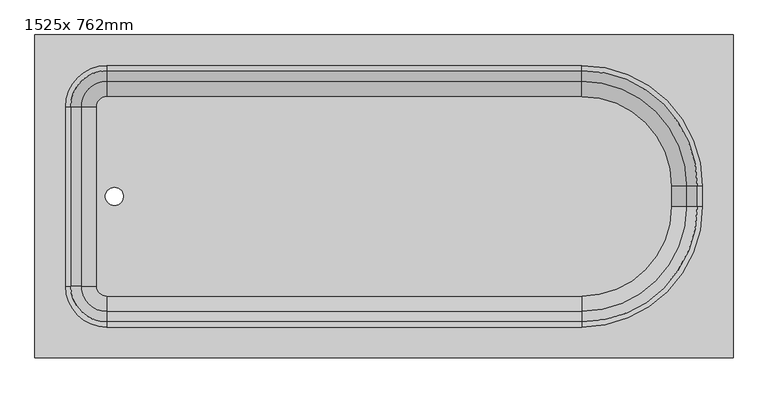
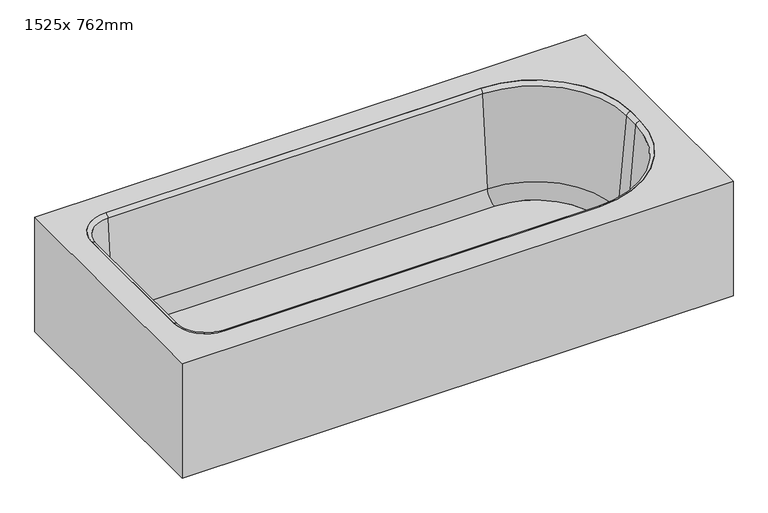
"""IFC4 building model written with IfcOpenShell, lengths in millimetres: flow terminal geometry, 욕조-직사각형-3D : 1525x 762mm."""

from ifc_helpers import new_model, si_unit, point, frame, frame_2d, origin, place, context, project, spatial, polyline, circle_curve, ellipse_curve, trimmed, segment, composite_curve, outline, extrude, source, transform, mapped, element, save
from ifc_brep_helpers import plane_surface, cylinder_surface, revolved_surface, advanced_brep


def flow_terminal_1525x_762mm_186bff3d(model_context):
    return source(origin(), model_context, "Body", "SolidModel", [
        advanced_brep(
        [(619.3970313, 950.0, 380.0), (-1110.6029687, 950.0, 380.0), (-1110.6029687, 150.0, 380.0), (619.3970313, 150.0, 380.0), (-932.8029687, 873.8, 380.0), (244.7970313, 873.8, 380.0), (543.1970313, 575.4, 380.0), (543.1970313, 524.6, 380.0), (244.7970313, 226.2, 380.0), (-932.8029687, 226.2, 380.0), (-1034.4029687, 327.8, 380.0), (-1034.4029687, 772.2, 380.0), (600.3470313, 930.95, 360.95), (600.3470313, 169.05, 360.95), (-1091.5529687, 169.05, 360.95), (-1091.5529687, 930.95, 360.95), (-932.8029687, 873.8, 360.95), (-1034.4029687, 772.2, 360.95), (-1034.4029687, 327.8, 360.95), (-932.8029687, 226.2, 360.95), (244.7970313, 226.2, 360.95), (543.1970313, 524.6, 360.95), (543.1970313, 575.4, 360.95), (244.7970313, 873.8, 360.95), (619.3970313, 950.0, 0.0), (-1110.6029687, 950.0, 0.0), (-1110.6029687, 150.0, 0.0), (619.3970313, 150.0, 0.0), (600.3470313, 930.95, 0.0), (-1091.5529687, 930.95, 0.0), (-1091.5529687, 169.05, 0.0), (600.3470313, 169.05, 0.0)],
        [
            (0, 1),
            (1, 2),
            (2, 3),
            (3, 0),
            (4, 5),
            (5, 6, circle_curve(frame((244.7970313, 575.4, 380.0), z_axis=(0.0, 0.0, -1.0), x_axis=(0.0, 1.0, 0.0)), 298.4)),
            (6, 7),
            (7, 8, circle_curve(frame((244.7970313, 524.6, 380.0), z_axis=(0.0, 0.0, -1.0), x_axis=(0.0, 1.0, 0.0)), 298.4)),
            (8, 9),
            (9, 10, circle_curve(frame((-932.8029687, 327.8, 380.0), z_axis=(0.0, 0.0, -1.0), x_axis=(0.0, 1.0, 0.0)), 101.6)),
            (10, 11),
            (11, 4, circle_curve(frame((-932.8029687, 772.2, 380.0), z_axis=(0.0, 0.0, -1.0), x_axis=(0.0, 1.0, 0.0)), 101.6)),
            (12, 13),
            (13, 14),
            (14, 15),
            (15, 12),
            (16, 17, circle_curve(frame((-932.8029687, 772.2, 360.95), z_axis=(0.0, 0.0, 1.0), x_axis=(0.0, 1.0, 0.0)), 101.6)),
            (17, 18),
            (18, 19, circle_curve(frame((-932.8029687, 327.8, 360.95), z_axis=(0.0, 0.0, 1.0), x_axis=(0.0, 1.0, 0.0)), 101.6)),
            (19, 20),
            (20, 21, circle_curve(frame((244.7970313, 524.6, 360.95), z_axis=(0.0, 0.0, 1.0), x_axis=(0.0, 1.0, 0.0)), 298.4)),
            (21, 22),
            (22, 23, circle_curve(frame((244.7970313, 575.4, 360.95), z_axis=(0.0, 0.0, 1.0), x_axis=(0.0, 1.0, 0.0)), 298.4)),
            (23, 16),
            (0, 24),
            (24, 25),
            (25, 1),
            (25, 26),
            (26, 2),
            (26, 27),
            (27, 3),
            (27, 24),
            (4, 16),
            (23, 5),
            (22, 6),
            (21, 7),
            (20, 8),
            (19, 9),
            (18, 10),
            (17, 11),
            (28, 29),
            (29, 30),
            (30, 31),
            (31, 28),
            (31, 13),
            (12, 28),
            (30, 14),
            (29, 15),
        ],
        [
            plane_surface(frame((-1110.6029687, 950.0, 380.0), z_axis=(0.0, 0.0, 1.0), x_axis=(-1.0, 0.0, 0.0))),
            plane_surface(frame((-1110.6029687, 950.0, 360.95), z_axis=(0.0, 0.0, -1.0), x_axis=(1.0, 0.0, 0.0))),
            plane_surface(frame((619.3970313, 950.0, 380.0), z_axis=(0.0, 1.0, 0.0), x_axis=(0.0, 0.0, -1.0))),
            plane_surface(frame((-1110.6029687, 950.0, 380.0), z_axis=(-1.0, 0.0, 0.0), x_axis=(0.0, 0.0, -1.0))),
            plane_surface(frame((-1110.6029687, 150.0, 380.0), z_axis=(0.0, -1.0, 0.0), x_axis=(0.0, 0.0, -1.0))),
            plane_surface(frame((619.3970313, 150.0, 380.0), z_axis=(1.0, 0.0, 0.0), x_axis=(0.0, 0.0, -1.0))),
            plane_surface(frame((-932.8029687, 873.8, 380.0), z_axis=(0.0, -1.0, 0.0), x_axis=(0.0, 0.0, -1.0))),
            revolved_surface(polyline([(244.7970313, 873.8, 360.95), (244.7970313, 873.8, 380.0)]), (244.7970313, 575.4, 380.0), (0.0, 0.0, -1.0)),
            plane_surface(frame((543.1970313, 575.4, 380.0), z_axis=(-1.0, 0.0, 0.0), x_axis=(0.0, 0.0, -1.0))),
            revolved_surface(polyline([(244.7970313, 823.0, 360.95), (244.7970313, 823.0, 380.0)]), (244.7970313, 524.6, 380.0), (0.0, 0.0, -1.0)),
            plane_surface(frame((244.7970313, 226.2, 380.0), z_axis=(0.0, 1.0, 0.0), x_axis=(0.0, 0.0, -1.0))),
            revolved_surface(polyline([(-932.8029687, 429.4, 360.95), (-932.8029687, 429.4, 380.0)]), (-932.8029687, 327.8, 380.0), (0.0, 0.0, -1.0)),
            plane_surface(frame((-1034.4029687, 327.8, 380.0), z_axis=(1.0, 0.0, 0.0), x_axis=(0.0, 0.0, -1.0))),
            revolved_surface(polyline([(-932.8029687, 873.8000000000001, 360.95), (-932.8029687, 873.8000000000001, 380.0)]), (-932.8029687, 772.2, 380.0), (0.0, 0.0, -1.0)),
            plane_surface(frame((-1110.6029687, 950.0, 0.0), z_axis=(0.0, 0.0, -1.0), x_axis=(1.0, 0.0, 0.0))),
            plane_surface(frame((600.3470313, 930.95, 360.95), z_axis=(-1.0, 0.0, 0.0), x_axis=(0.0, 0.0, -1.0))),
            plane_surface(frame((600.3470313, 169.05, 360.95), z_axis=(0.0, 1.0, 0.0), x_axis=(0.0, 0.0, -1.0))),
            plane_surface(frame((-1091.5529687, 169.05, 360.95), z_axis=(1.0, 0.0, 0.0), x_axis=(0.0, 0.0, -1.0))),
            plane_surface(frame((-1091.5529687, 930.95, 360.95), z_axis=(0.0, -1.0, 0.0), x_axis=(0.0, 0.0, -1.0))),
        ],
        [
            (0, [[1, 2, 3, 4], [5, 6, 7, 8, 9, 10, 11, 12]]),
            (1, [[13, 14, 15, 16], [17, 18, 19, 20, 21, 22, 23, 24]]),
            (2, [[-1, 25, 26, 27]]),
            (3, [[-2, -27, 28, 29]]),
            (4, [[-3, -29, 30, 31]]),
            (5, [[-25, -4, -31, 32]]),
            (6, [[-5, 33, -24, 34]]),
            (7, [[-6, -34, -23, 35]]),
            (8, [[-7, -35, -22, 36]]),
            (9, [[-8, -36, -21, 37]]),
            (10, [[-9, -37, -20, 38]]),
            (11, [[-10, -38, -19, 39]]),
            (12, [[-11, -39, -18, 40]]),
            (13, [[-12, -40, -17, -33]]),
            (14, [[-32, -30, -28, -26], [41, 42, 43, 44]]),
            (15, [[-44, 45, -13, 46]]),
            (16, [[-43, 47, -14, -45]]),
            (17, [[-42, 48, -15, -47]]),
            (18, [[-41, -46, -16, -48]]),
        ],
    ),
        extrude(outline(composite_curve([segment(trimmed(circle_curve(frame_2d((244.7970313, 575.4)), 221.7964741), [point((244.7970313, 797.1964741))], [point((466.5935054, 575.4))], False, "CARTESIAN"), True, "CONTINUOUS"), segment(polyline([(466.5935054, 575.4), (466.5935054, 524.6)]), True, "CONTINUOUS"), segment(trimmed(circle_curve(frame_2d((244.7970313, 524.6)), 221.7964741), [point((466.5935054, 524.6))], [point((244.7970313, 302.8035259))], False, "CARTESIAN"), True, "CONTINUOUS"), segment(polyline([(244.7970313, 302.8035259), (-932.8029687, 302.8035259)]), True, "CONTINUOUS"), segment(trimmed(circle_curve(frame_2d((-932.8029687, 327.8)), 24.9964741), [point((-932.8029687, 302.8035259))], [point((-957.7994428, 327.8))], False, "CARTESIAN"), True, "CONTINUOUS"), segment(polyline([(-957.7994428, 327.8), (-957.7994428, 772.2)]), True, "CONTINUOUS"), segment(trimmed(circle_curve(frame_2d((-932.8029687, 772.2)), 24.9964741), [point((-957.7994428, 772.2))], [point((-932.8029687, 797.1964741))], False, "CARTESIAN"), True, "CONTINUOUS"), segment(polyline([(-932.8029687, 797.1964741), (244.7970313, 797.1964741)]), True, "CONTINUOUS")], self_intersect=False), holes=[composite_curve([segment(trimmed(circle_curve(frame_2d((-913.5971625, 550.0)), 22.225), [point((-913.5971625, 572.225))], [point((-913.5971625, 527.775))], True, "CARTESIAN"), True, "CONTINUOUS"), segment(trimmed(circle_curve(frame_2d((-913.5971625, 550.0)), 22.225), [point((-913.5971625, 527.775))], [point((-913.5971625, 572.225))], True, "CARTESIAN"), True, "CONTINUOUS")], self_intersect=False)]), frame((0.0, 0.0, 15.863573), z_axis=(0.0, 0.0, 1.0), x_axis=(1.0, 0.0, 0.0)), (0.0, 0.0, 1.0), 19.05),
        advanced_brep(
        [(-995.7544608, 772.2, 69.6929392), (-932.8029687, 835.1514921, 69.6929392), (-932.8029687, 861.3220035, 368.8232535), (-1021.9249722, 772.2, 368.8232535), (-957.7994428, 772.2, 34.913573), (-932.8029687, 797.1964741, 34.913573), (-957.7994428, 772.2, 15.863573), (-932.8029687, 797.1964741, 15.863573), (-1034.4029687, 772.2, 15.863573), (-932.8029687, 873.8, 15.863573), (-1034.4029687, 772.2, 380.0), (-932.8029687, 873.8, 380.0), (-1021.9249722, 327.8, 368.8232535), (-995.7544608, 327.8, 69.6929392), (-957.7994428, 327.8, 34.913573), (-957.7994428, 327.8, 15.863573), (-1034.4029687, 327.8, 15.863573), (-1034.4029687, 327.8, 380.0), (-932.8029687, 264.8485079, 69.6929392), (-932.8029687, 238.6779965, 368.8232535), (-932.8029687, 302.8035259, 34.913573), (-932.8029687, 302.8035259, 15.863573), (-932.8029687, 226.2, 15.863573), (-932.8029687, 226.2, 380.0), (244.7970313, 238.6779965, 368.8232535), (244.7970313, 264.8485079, 69.6929392), (244.7970313, 302.8035259, 34.913573), (244.7970313, 302.8035259, 15.863573), (244.7970313, 226.2, 15.863573), (244.7970313, 226.2, 380.0), (504.5485234, 524.6, 69.6929392), (530.7190348, 524.6, 368.8232535), (466.5935054, 524.6, 34.913573), (466.5935054, 524.6, 15.863573), (543.1970313, 524.6, 15.863573), (543.1970313, 524.6, 380.0), (530.7190348, 575.4, 368.8232535), (504.5485234, 575.4, 69.6929392), (466.5935054, 575.4, 34.913573), (466.5935054, 575.4, 15.863573), (543.1970313, 575.4, 15.863573), (543.1970313, 575.4, 380.0), (244.7970313, 835.1514921, 69.6929392), (244.7970313, 861.3220035, 368.8232535), (244.7970313, 797.1964741, 34.913573), (244.7970313, 797.1964741, 15.863573), (244.7970313, 873.8, 15.863573), (244.7970313, 873.8, 380.0)],
        [
            (0, 1, circle_curve(frame((-932.8029687, 772.2, 69.6929392), z_axis=(0.0, 0.0, -1.0), x_axis=(0.0, 1.0, 0.0)), 62.9514921)),
            (1, 2),
            (2, 3, circle_curve(frame((-932.8029687, 772.2, 368.8232535), z_axis=(0.0, 0.0, 1.0), x_axis=(0.0, 1.0, 0.0)), 89.1220035)),
            (3, 0),
            (4, 5, circle_curve(frame((-932.8029687, 772.2, 34.913573), z_axis=(0.0, 0.0, -1.0), x_axis=(0.0, 1.0, 0.0)), 24.9964741)),
            (5, 1, circle_curve(frame((-932.8029687, 797.1964741, 73.013573), z_axis=(1.0, 0.0, 0.0), x_axis=(0.0, -1.0, 0.0)), 38.1)),
            (0, 4, circle_curve(frame((-957.7994428, 772.2, 73.013573), z_axis=(0.0, -1.0, 0.0), x_axis=(1.0, 0.0, 0.0)), 38.1)),
            (6, 7, circle_curve(frame((-932.8029687, 772.2, 15.863573), z_axis=(0.0, 0.0, -1.0), x_axis=(0.0, 1.0, 0.0)), 24.9964741)),
            (7, 5),
            (4, 6),
            (8, 9, circle_curve(frame((-932.8029687, 772.2, 15.863573), z_axis=(0.0, 0.0, -1.0), x_axis=(0.0, 1.0, 0.0)), 101.6)),
            (9, 7),
            (6, 8),
            (10, 11, circle_curve(frame((-932.8029687, 772.2, 380.0), z_axis=(0.0, 0.0, -1.0), x_axis=(0.0, 1.0, 0.0)), 101.6)),
            (11, 9),
            (8, 10),
            (2, 11, circle_curve(frame((-932.8029687, 873.8, 367.4462547), z_axis=(-1.0, 0.0, 0.0), x_axis=(0.0, -1.0, 0.0)), 12.5537453)),
            (10, 3, circle_curve(frame((-1034.4029687, 772.2, 367.4462547), z_axis=(0.0, 1.0, 0.0), x_axis=(1.0, 0.0, 0.0)), 12.5537453)),
            (3, 12),
            (12, 13),
            (13, 0),
            (13, 14, circle_curve(frame((-957.7994428, 327.8, 73.013573), z_axis=(0.0, -1.0, 0.0), x_axis=(1.0, 0.0, 0.0)), 38.1)),
            (14, 4),
            (14, 15),
            (15, 6),
            (15, 16),
            (16, 8),
            (16, 17),
            (17, 10),
            (17, 12, circle_curve(frame((-1034.4029687, 327.8, 367.4462547), z_axis=(0.0, 1.0, 0.0), x_axis=(1.0, 0.0, 0.0)), 12.5537453)),
            (18, 13, circle_curve(frame((-932.8029687, 327.8, 69.6929392), z_axis=(0.0, 0.0, -1.0), x_axis=(-1.0, 0.0, 0.0)), 62.9514921)),
            (12, 19, circle_curve(frame((-932.8029687, 327.8, 368.8232535), z_axis=(0.0, 0.0, 1.0), x_axis=(-1.0, 0.0, 0.0)), 89.1220035)),
            (19, 18),
            (20, 14, circle_curve(frame((-932.8029687, 327.8, 34.913573), z_axis=(0.0, 0.0, -1.0), x_axis=(-1.0, 0.0, 0.0)), 24.9964741)),
            (18, 20, circle_curve(frame((-932.8029687, 302.8035259, 73.013573), z_axis=(1.0, 0.0, 0.0), x_axis=(0.0, 1.0, 0.0)), 38.1)),
            (21, 15, circle_curve(frame((-932.8029687, 327.8, 15.863573), z_axis=(0.0, 0.0, -1.0), x_axis=(-1.0, 0.0, 0.0)), 24.9964741)),
            (20, 21),
            (22, 16, circle_curve(frame((-932.8029687, 327.8, 15.863573), z_axis=(0.0, 0.0, -1.0), x_axis=(-1.0, 0.0, 0.0)), 101.6)),
            (21, 22),
            (23, 17, circle_curve(frame((-932.8029687, 327.8, 380.0), z_axis=(0.0, 0.0, -1.0), x_axis=(-1.0, 0.0, 0.0)), 101.6)),
            (22, 23),
            (23, 19, circle_curve(frame((-932.8029687, 226.2, 367.4462547), z_axis=(-1.0, 0.0, 0.0), x_axis=(0.0, 1.0, 0.0)), 12.5537453)),
            (19, 24),
            (24, 25),
            (25, 18),
            (25, 26, circle_curve(frame((244.7970313, 302.8035259, 73.013573), z_axis=(1.0, 0.0, 0.0), x_axis=(0.0, 1.0, 0.0)), 38.1)),
            (26, 20),
            (26, 27),
            (27, 21),
            (27, 28),
            (28, 22),
            (28, 29),
            (29, 23),
            (29, 24, circle_curve(frame((244.7970313, 226.2, 367.4462547), z_axis=(-1.0, 0.0, 0.0), x_axis=(0.0, 1.0, 0.0)), 12.5537453)),
            (30, 25, circle_curve(frame((244.7970313, 524.6, 69.6929392), z_axis=(0.0, 0.0, -1.0), x_axis=(0.0, -1.0, 0.0)), 259.7514921)),
            (24, 31, circle_curve(frame((244.7970313, 524.6, 368.8232535), z_axis=(0.0, 0.0, 1.0), x_axis=(0.0, -1.0, 0.0)), 285.9220035)),
            (31, 30),
            (32, 26, circle_curve(frame((244.7970313, 524.6, 34.913573), z_axis=(0.0, 0.0, -1.0), x_axis=(0.0, -1.0, 0.0)), 221.7964741)),
            (30, 32, circle_curve(frame((466.5935054, 524.6, 73.013573), z_axis=(0.0, 1.0, 0.0), x_axis=(-1.0, 0.0, 0.0)), 38.1)),
            (33, 27, circle_curve(frame((244.7970313, 524.6, 15.863573), z_axis=(0.0, 0.0, -1.0), x_axis=(0.0, -1.0, 0.0)), 221.7964741)),
            (32, 33),
            (34, 28, circle_curve(frame((244.7970313, 524.6, 15.863573), z_axis=(0.0, 0.0, -1.0), x_axis=(0.0, -1.0, 0.0)), 298.4)),
            (33, 34),
            (35, 29, circle_curve(frame((244.7970313, 524.6, 380.0), z_axis=(0.0, 0.0, -1.0), x_axis=(0.0, -1.0, 0.0)), 298.4)),
            (34, 35),
            (35, 31, circle_curve(frame((543.1970313, 524.6, 367.4462547), z_axis=(0.0, -1.0, 0.0), x_axis=(-1.0, 0.0, 0.0)), 12.5537453)),
            (31, 36),
            (36, 37),
            (37, 30),
            (37, 38, circle_curve(frame((466.5935054, 575.4, 73.013573), z_axis=(0.0, 1.0, 0.0), x_axis=(-1.0, 0.0, 0.0)), 38.1)),
            (38, 32),
            (38, 39),
            (39, 33),
            (39, 40),
            (40, 34),
            (40, 41),
            (41, 35),
            (41, 36, circle_curve(frame((543.1970313, 575.4, 367.4462547), z_axis=(0.0, -1.0, 0.0), x_axis=(-1.0, 0.0, 0.0)), 12.5537453)),
            (42, 37, circle_curve(frame((244.7970313, 575.4, 69.6929392), z_axis=(0.0, 0.0, -1.0), x_axis=(1.0, 0.0, 0.0)), 259.7514921)),
            (36, 43, circle_curve(frame((244.7970313, 575.4, 368.8232535), z_axis=(0.0, 0.0, 1.0), x_axis=(1.0, 0.0, 0.0)), 285.9220035)),
            (43, 42),
            (44, 38, circle_curve(frame((244.7970313, 575.4, 34.913573), z_axis=(0.0, 0.0, -1.0), x_axis=(1.0, 0.0, 0.0)), 221.7964741)),
            (42, 44, circle_curve(frame((244.7970313, 797.1964741, 73.013573), z_axis=(-1.0, 0.0, 0.0), x_axis=(0.0, -1.0, 0.0)), 38.1)),
            (45, 39, circle_curve(frame((244.7970313, 575.4, 15.863573), z_axis=(0.0, 0.0, -1.0), x_axis=(1.0, 0.0, 0.0)), 221.7964741)),
            (44, 45),
            (46, 40, circle_curve(frame((244.7970313, 575.4, 15.863573), z_axis=(0.0, 0.0, -1.0), x_axis=(1.0, 0.0, 0.0)), 298.4)),
            (45, 46),
            (47, 41, circle_curve(frame((244.7970313, 575.4, 380.0), z_axis=(0.0, 0.0, -1.0), x_axis=(1.0, 0.0, 0.0)), 298.4)),
            (46, 47),
            (47, 43, circle_curve(frame((244.7970313, 873.8, 367.4462547), z_axis=(1.0, 0.0, 0.0), x_axis=(0.0, -1.0, 0.0)), 12.5537453)),
            (43, 2),
            (1, 42),
            (5, 44),
            (7, 45),
            (9, 46),
            (11, 47),
        ],
        [
            revolved_surface(polyline([(-932.8029687, 861.3220035, 368.8232535), (-932.8029687, 835.1514921, 69.6929392)]), (-932.8029687, 772.2, 380.0), (0.0, 0.0, 1.0)),
            revolved_surface(trimmed(ellipse_curve(frame((-932.8029687, 797.1964741, 73.013573), z_axis=(-1.0, 0.0, 0.0), x_axis=(0.0, -1.0, 0.0)), 38.1, 38.1), [point((-932.8029687, 835.1514921, 69.6929392))], [point((-932.8029687, 797.1964741, 34.913573))], True, "CARTESIAN"), (-932.8029687, 772.2, 380.0), (0.0, 0.0, 1.0)),
            revolved_surface(polyline([(-932.8029687, 797.1964741, 34.913572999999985), (-932.8029687, 797.1964741, 15.863572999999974)]), (-932.8029687, 772.2, 380.0), (0.0, 0.0, 1.0)),
            plane_surface(frame((-932.8029687, 772.2, 15.863573), z_axis=(0.0, 0.0, -1.0), x_axis=(0.0, 1.0, 0.0))),
            cylinder_surface(frame((-932.8029687, 772.2, 380.0), z_axis=(0.0, 0.0, 1.0), x_axis=(0.0, 1.0, 0.0)), 101.6),
            revolved_surface(trimmed(ellipse_curve(frame((-932.8029687, 873.8, 367.4462547), z_axis=(1.0, 0.0, 0.0), x_axis=(0.0, -1.0, 0.0)), 12.5537453, 12.5537453), [point((-932.8029687, 873.8, 380.0))], [point((-932.8029687, 861.3220035, 368.8232535))], True, "CARTESIAN"), (-932.8029687, 772.2, 380.0), (0.0, 0.0, 1.0)),
            plane_surface(frame((-1021.9249722, 772.2, 368.8232535), z_axis=(0.9961946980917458, 0.0, 0.0871557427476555), x_axis=(0.0, -1.0, 0.0))),
            revolved_surface(polyline([(-919.6994427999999, 327.8, 73.013573), (-919.6994427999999, 772.2, 73.013573)]), (-957.7994428, 772.2, 73.013573), (0.0, -1.0, 0.0)),
            plane_surface(frame((-957.7994428, 772.2, 34.913573), z_axis=(1.0, 0.0, 0.0), x_axis=(0.0, -1.0, 0.0))),
            plane_surface(frame((-957.7994428, 772.2, 15.863573), z_axis=(0.0, 0.0, -1.0), x_axis=(0.0, -1.0, 0.0))),
            plane_surface(frame((-1034.4029687, 772.2, 15.863573), z_axis=(-1.0, 0.0, 0.0), x_axis=(0.0, -1.0, 0.0))),
            cylinder_surface(frame((-1034.4029687, 772.2, 367.4462547), z_axis=(0.0, 1.0, 0.0), x_axis=(1.0, 0.0, 0.0)), 12.5537453),
            revolved_surface(polyline([(-1021.9249722, 327.8, 368.8232535), (-995.7544608, 327.8, 69.6929392)]), (-932.8029687, 327.8, 380.0), (0.0, 0.0, 1.0)),
            revolved_surface(trimmed(ellipse_curve(frame((-957.7994428, 327.8, 73.013573), z_axis=(0.0, -1.0, 0.0), x_axis=(1.0, 0.0, 0.0)), 38.1, 38.1), [point((-995.7544608, 327.8, 69.6929392))], [point((-957.7994428, 327.8, 34.913573))], True, "CARTESIAN"), (-932.8029687, 327.8, 380.0), (0.0, 0.0, 1.0)),
            revolved_surface(polyline([(-957.7994428, 327.8, 34.913572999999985), (-957.7994428, 327.8, 15.863572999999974)]), (-932.8029687, 327.8, 380.0), (0.0, 0.0, 1.0)),
            plane_surface(frame((-932.8029687, 327.8, 15.863573), z_axis=(0.0, 0.0, -1.0), x_axis=(-1.0, 0.0, 0.0))),
            cylinder_surface(frame((-932.8029687, 327.8, 380.0), z_axis=(0.0, 0.0, 1.0), x_axis=(-1.0, 0.0, 0.0)), 101.6),
            revolved_surface(trimmed(ellipse_curve(frame((-1034.4029687, 327.8, 367.4462547), z_axis=(0.0, 1.0, 0.0), x_axis=(1.0, 0.0, 0.0)), 12.5537453, 12.5537453), [point((-1034.4029687, 327.8, 380.0))], [point((-1021.9249722, 327.8, 368.8232535))], True, "CARTESIAN"), (-932.8029687, 327.8, 380.0), (0.0, 0.0, 1.0)),
            plane_surface(frame((-932.8029687, 238.6779965, 368.8232535), z_axis=(0.0, 0.9961946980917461, 0.08715574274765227), x_axis=(1.0, 0.0, 0.0))),
            revolved_surface(polyline([(244.79703129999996, 340.90352590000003, 73.013573), (-932.8029687, 340.90352590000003, 73.013573)]), (-932.8029687, 302.8035259, 73.013573), (1.0, 0.0, 0.0)),
            plane_surface(frame((-932.8029687, 302.8035259, 34.913573), z_axis=(0.0, 1.0, 0.0), x_axis=(1.0, 0.0, 0.0))),
            plane_surface(frame((-932.8029687, 302.8035259, 15.863573), z_axis=(0.0, 0.0, -1.0), x_axis=(1.0, 0.0, 0.0))),
            plane_surface(frame((-932.8029687, 226.2, 15.863573), z_axis=(0.0, -1.0, 0.0), x_axis=(1.0, 0.0, 0.0))),
            cylinder_surface(frame((-932.8029687, 226.2, 367.4462547), z_axis=(-1.0, 0.0, 0.0), x_axis=(0.0, 1.0, 0.0)), 12.5537453),
            revolved_surface(polyline([(244.7970313, 238.6779965, 368.8232535), (244.7970313, 264.8485079, 69.6929392)]), (244.7970313, 524.6, 380.0), (0.0, 0.0, 1.0)),
            revolved_surface(trimmed(ellipse_curve(frame((244.7970313, 302.8035259, 73.013573), z_axis=(1.0, 0.0, 0.0), x_axis=(0.0, 1.0, 0.0)), 38.1, 38.1), [point((244.7970313, 264.8485079, 69.6929392))], [point((244.7970313, 302.8035259, 34.913573))], True, "CARTESIAN"), (244.7970313, 524.6, 380.0), (0.0, 0.0, 1.0)),
            revolved_surface(polyline([(244.7970313, 302.8035259, 34.913572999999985), (244.7970313, 302.8035259, 15.863572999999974)]), (244.7970313, 524.6, 380.0), (0.0, 0.0, 1.0)),
            plane_surface(frame((244.7970313, 524.6, 15.863573), z_axis=(0.0, 0.0, -1.0), x_axis=(0.0, -1.0, 0.0))),
            cylinder_surface(frame((244.7970313, 524.6, 380.0), z_axis=(0.0, 0.0, 1.0), x_axis=(0.0, -1.0, 0.0)), 298.4),
            revolved_surface(trimmed(ellipse_curve(frame((244.7970313, 226.2, 367.4462547), z_axis=(-1.0, 0.0, 0.0), x_axis=(0.0, 1.0, 0.0)), 12.5537453, 12.5537453), [point((244.7970313, 226.2, 380.0))], [point((244.7970313, 238.6779965, 368.8232535))], True, "CARTESIAN"), (244.7970313, 524.6, 380.0), (0.0, 0.0, 1.0)),
            plane_surface(frame((530.7190348, 524.6, 368.8232535), z_axis=(-0.9961946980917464, 0.0, 0.08715574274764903), x_axis=(0.0, 1.0, 0.0))),
            revolved_surface(polyline([(428.4935054, 575.4, 73.013573), (428.4935054, 524.6, 73.013573)]), (466.5935054, 524.6, 73.013573), (0.0, 1.0, 0.0)),
            plane_surface(frame((466.5935054, 524.6, 34.913573), z_axis=(-1.0, 0.0, 0.0), x_axis=(0.0, 1.0, 0.0))),
            plane_surface(frame((466.5935054, 524.6, 15.863573), z_axis=(0.0, 0.0, -1.0), x_axis=(0.0, 1.0, 0.0))),
            plane_surface(frame((543.1970313, 524.6, 15.863573), z_axis=(1.0, 0.0, 0.0), x_axis=(0.0, 1.0, 0.0))),
            cylinder_surface(frame((543.1970313, 524.6, 367.4462547), z_axis=(0.0, -1.0, 0.0), x_axis=(-1.0, 0.0, 0.0)), 12.5537453),
            revolved_surface(polyline([(530.7190348, 575.4, 368.8232535), (504.5485234, 575.4, 69.6929392)]), (244.7970313, 575.4, 380.0), (0.0, 0.0, 1.0)),
            revolved_surface(trimmed(ellipse_curve(frame((466.5935054, 575.4, 73.013573), z_axis=(0.0, 1.0, 0.0), x_axis=(-1.0, 0.0, 0.0)), 38.1, 38.1), [point((504.5485234, 575.4, 69.6929392))], [point((466.5935054, 575.4, 34.913573))], True, "CARTESIAN"), (244.7970313, 575.4, 380.0), (0.0, 0.0, 1.0)),
            revolved_surface(polyline([(466.5935054, 575.4, 34.913572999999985), (466.5935054, 575.4, 15.863572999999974)]), (244.7970313, 575.4, 380.0), (0.0, 0.0, 1.0)),
            plane_surface(frame((244.7970313, 575.4, 15.863573), z_axis=(0.0, 0.0, -1.0), x_axis=(1.0, 0.0, 0.0))),
            cylinder_surface(frame((244.7970313, 575.4, 380.0), z_axis=(0.0, 0.0, 1.0), x_axis=(1.0, 0.0, 0.0)), 298.4),
            revolved_surface(trimmed(ellipse_curve(frame((543.1970313, 575.4, 367.4462547), z_axis=(0.0, -1.0, 0.0), x_axis=(-1.0, 0.0, 0.0)), 12.5537453, 12.5537453), [point((543.1970313, 575.4, 380.0))], [point((530.7190348, 575.4, 368.8232535))], True, "CARTESIAN"), (244.7970313, 575.4, 380.0), (0.0, 0.0, 1.0)),
            plane_surface(frame((244.7970313, 861.3220035, 368.8232535), z_axis=(0.0, -0.9961946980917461, 0.08715574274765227), x_axis=(-1.0, 0.0, 0.0))),
            revolved_surface(polyline([(-932.8029687, 759.0964741, 73.013573), (244.7970313, 759.0964741, 73.013573)]), (244.7970313, 797.1964741, 73.013573), (-1.0, 0.0, 0.0)),
            plane_surface(frame((244.7970313, 797.1964741, 34.913573), z_axis=(0.0, -1.0, 0.0), x_axis=(-1.0, 0.0, 0.0))),
            plane_surface(frame((244.7970313, 797.1964741, 15.863573), z_axis=(0.0, 0.0, -1.0), x_axis=(-1.0, 0.0, 0.0))),
            plane_surface(frame((244.7970313, 873.8, 15.863573), z_axis=(0.0, 1.0, 0.0), x_axis=(-1.0, 0.0, 0.0))),
            cylinder_surface(frame((244.7970313, 873.8, 367.4462547), z_axis=(1.0, 0.0, 0.0), x_axis=(0.0, -1.0, 0.0)), 12.5537453),
        ],
        [
            (0, [[1, 2, 3, 4]]),
            (1, [[5, 6, -1, 7]]),
            (2, [[8, 9, -5, 10]]),
            (3, [[11, 12, -8, 13]]),
            (4, [[14, 15, -11, 16]]),
            (5, [[-3, 17, -14, 18]]),
            (6, [[-4, 19, 20, 21]]),
            (7, [[-7, -21, 22, 23]]),
            (8, [[-10, -23, 24, 25]]),
            (9, [[-13, -25, 26, 27]]),
            (10, [[-16, -27, 28, 29]]),
            (11, [[-18, -29, 30, -19]]),
            (12, [[31, -20, 32, 33]]),
            (13, [[34, -22, -31, 35]]),
            (14, [[36, -24, -34, 37]]),
            (15, [[38, -26, -36, 39]]),
            (16, [[40, -28, -38, 41]]),
            (17, [[-32, -30, -40, 42]]),
            (18, [[-33, 43, 44, 45]]),
            (19, [[-35, -45, 46, 47]]),
            (20, [[-37, -47, 48, 49]]),
            (21, [[-39, -49, 50, 51]]),
            (22, [[-41, -51, 52, 53]]),
            (23, [[-42, -53, 54, -43]]),
            (24, [[55, -44, 56, 57]]),
            (25, [[58, -46, -55, 59]]),
            (26, [[60, -48, -58, 61]]),
            (27, [[62, -50, -60, 63]]),
            (28, [[64, -52, -62, 65]]),
            (29, [[-56, -54, -64, 66]]),
            (30, [[-57, 67, 68, 69]]),
            (31, [[-59, -69, 70, 71]]),
            (32, [[-61, -71, 72, 73]]),
            (33, [[-63, -73, 74, 75]]),
            (34, [[-65, -75, 76, 77]]),
            (35, [[-66, -77, 78, -67]]),
            (36, [[79, -68, 80, 81]]),
            (37, [[82, -70, -79, 83]]),
            (38, [[84, -72, -82, 85]]),
            (39, [[86, -74, -84, 87]]),
            (40, [[88, -76, -86, 89]]),
            (41, [[-80, -78, -88, 90]]),
            (42, [[-81, 91, -2, 92]]),
            (43, [[-83, -92, -6, 93]]),
            (44, [[-85, -93, -9, 94]]),
            (45, [[-87, -94, -12, 95]]),
            (46, [[-89, -95, -15, 96]]),
            (47, [[-90, -96, -17, -91]]),
        ],
    ),
    ])


if __name__ == "__main__":
    model = new_model("IFC4")
    model_context = context("Model", 3, world=origin())
    ifc_project = project(units=[si_unit("LENGTHUNIT", "METRE", prefix="MILLI")], contexts=[model_context])
    site = spatial("IfcSite", under=ifc_project)
    building = spatial("IfcBuilding", under=site)
    placement = place(None, origin())
    flow_terminal_1525x_762mm_shape = flow_terminal_1525x_762mm_186bff3d(model_context)
    element("IfcFlowTerminal", 1, ObjectType="욕조-직사각형-3D : 1525x 762mm", at=placement, inside=building, context=model_context, shape_type="MappedRepresentation", body=[
        mapped(flow_terminal_1525x_762mm_shape, transform((0.0, 0.0, 0.0), x_axis=(1.0, 0.0, 0.0), y_axis=(0.0, 1.0, 0.0), z_axis=(0.0, 0.0, 1.0))),
    ])
    save(model, "model.ifc")
